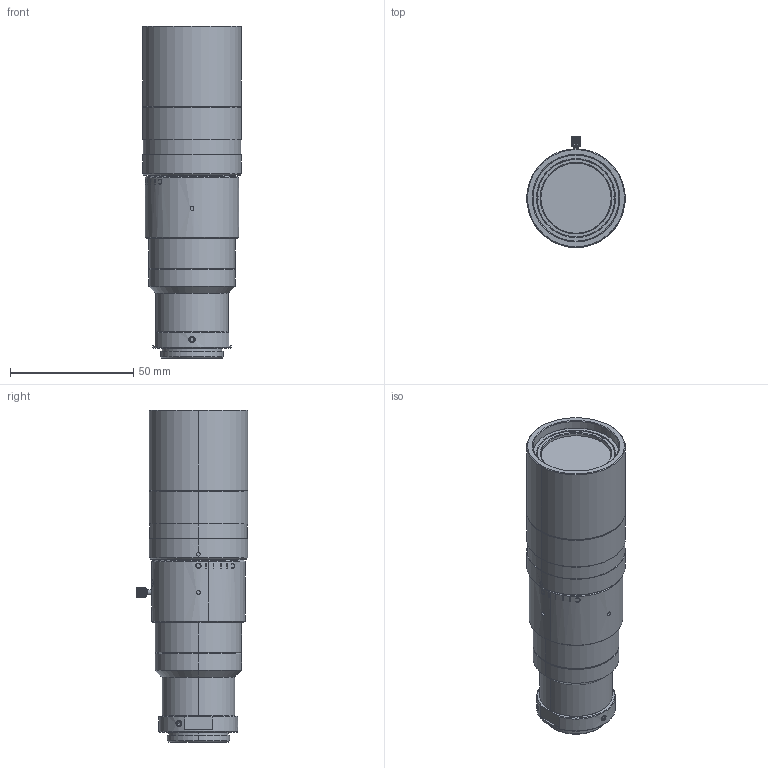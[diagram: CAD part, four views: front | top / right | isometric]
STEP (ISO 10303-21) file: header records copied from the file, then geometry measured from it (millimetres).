
FILE_DESCRIPTION (( 'STEP AP203' ), '1' );
FILE_NAME ('3d_mml2-sr65vi-18c_a001.STEP', '2020-04-15T00:33:52', ( '' ), ( '' ), 'SwSTEP 2.0', 'SolidWorks 2017', '' );
FILE_SCHEMA (( 'CONFIG_CONTROL_DESIGN' ));
Length unit declared in the file: millimetre
Products named in the file (1): 3d_mml2-sr65vi-18c_a001
Bounding box: 40 x 45.2 x 134.75 mm (x, y, z)
Volume: 125902.5 mm3; surface area: 22522.2 mm2
Topology: 1 solids, 1 shells, 474 faces, 1224 edges, 800 vertices
Faces by surface type: cylinder 188, plane 149, cone 81, bspline 56
Entity records: 22605 total; most frequent: CARTESIAN_POINT 11797, ORIENTED_EDGE 2448, DIRECTION 1880, EDGE_CURVE 1224, VERTEX_POINT 800, AXIS2_PLACEMENT_3D 721, EDGE_LOOP 522, B_SPLINE_CURVE_WITH_KNOTS 484
